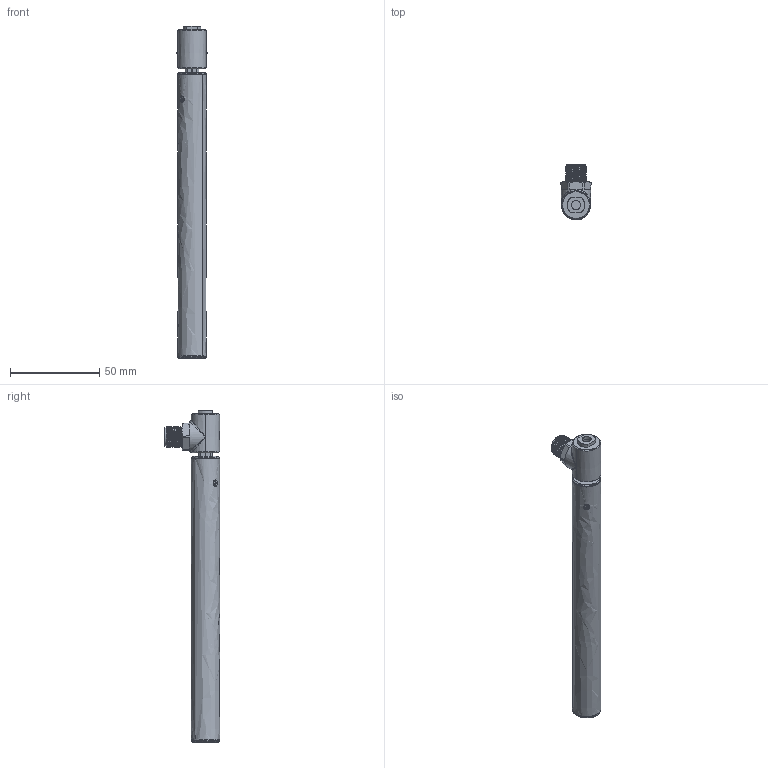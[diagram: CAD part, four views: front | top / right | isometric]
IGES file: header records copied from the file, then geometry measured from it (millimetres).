
Start section: SolidWorks IGES file using analytic representation for surfaces
Global section: file name: C:\Users\diego.babaglioni\Desktop\disegno TWIIST\IGES\LS-A-0100.IGS; native system: SolidWorks 2021; preprocessor: SolidWorks 2021; author: diego.babaglioni; date: 220225.093644; units: millimetre
Bounding box: 16.96 x 31 x 186 mm (x, y, z)
Surface area: 26641.7 mm2 (no closed solid volume)
Topology: 0 solids, 0 shells, 370 faces, 4732 edges, 4722 vertices
Faces by surface type: bspline 186, revolution 184
